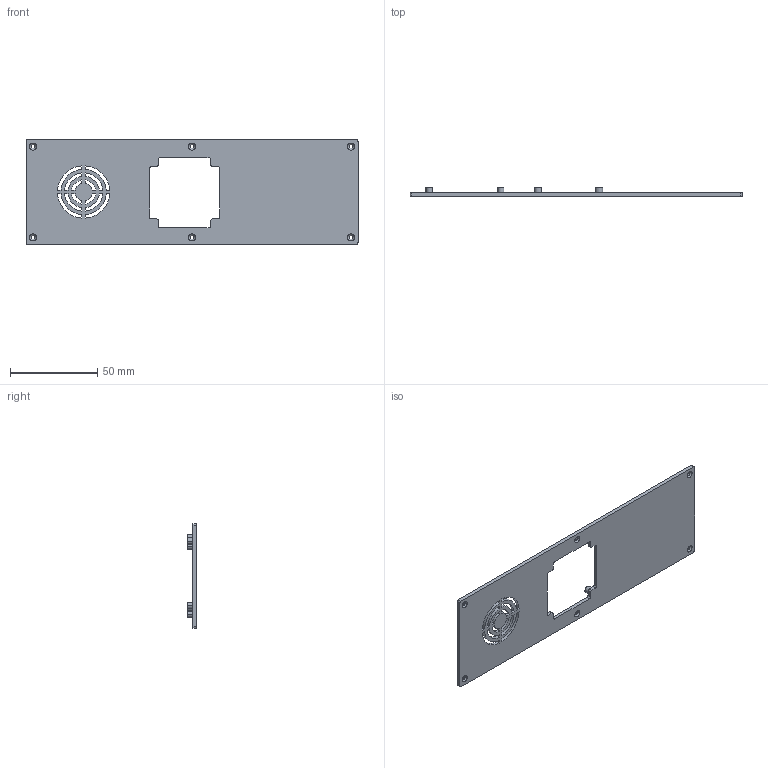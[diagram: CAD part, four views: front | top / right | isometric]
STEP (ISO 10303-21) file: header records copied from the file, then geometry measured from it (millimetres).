
FILE_DESCRIPTION((''),'2;1');
FILE_NAME('CASE-BASE','2023-06-24T22:26:43',('lamadaemon'),(''),'CREO PARAMETRIC BY PTC INC, 2022073','CREO PARAMETRIC BY PTC INC, 2022073','');
FILE_SCHEMA(('CONFIG_CONTROL_DESIGN'));
Length unit declared in the file: millimetre
Products named in the file (1): CASE-BASE
Bounding box: 190 x 5 x 60 mm (x, y, z)
Volume: 19290.5 mm3; surface area: 21787.4 mm2
Topology: 1 solids, 9 shells, 186 faces, 492 edges, 316 vertices
Faces by surface type: cylinder 100, plane 58, cone 28
Entity records: 5835 total; most frequent: DIRECTION 1078, CARTESIAN_POINT 979, ORIENTED_EDGE 920, EDGE_CURVE 476, AXIS2_PLACEMENT_3D 415, VERTEX_POINT 316, VECTOR 248, LINE 248
